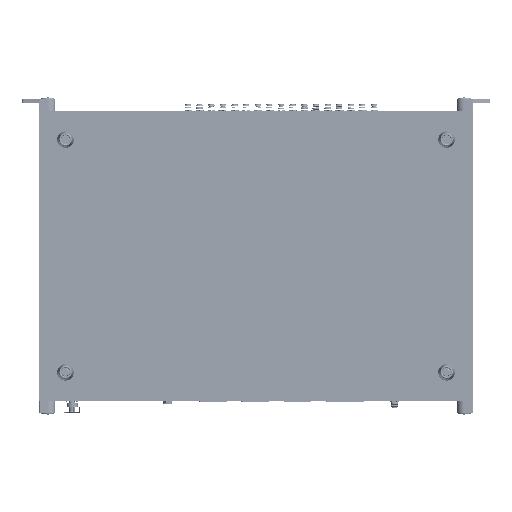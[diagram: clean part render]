
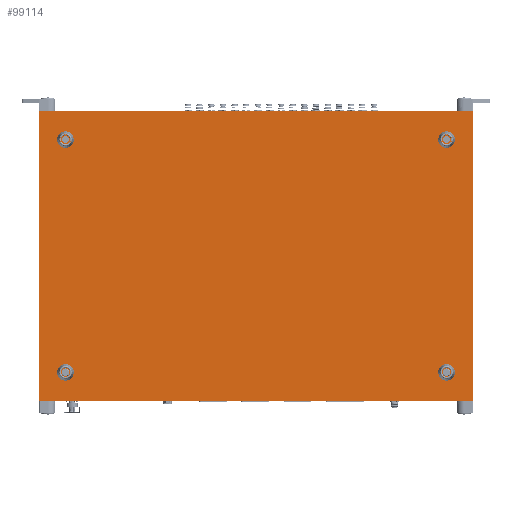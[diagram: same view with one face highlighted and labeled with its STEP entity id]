
A CAD part, front view. The second image highlights one B-rep face of the part: STEP entity #99114.
In plain terms, the highlighted planar face has unit normal (0, -1, 0).
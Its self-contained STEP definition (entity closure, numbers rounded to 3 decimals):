
#4321 = FACE_BOUND ( 'NONE', #170652, .T. ) ;
#4451 = VERTEX_POINT ( 'NONE', #182376 ) ;
#7683 = FACE_BOUND ( 'NONE', #128291, .T. ) ;
#16438 = DIRECTION ( 'NONE',  ( 0., 0., -1. ) ) ;
#16638 = EDGE_CURVE ( 'NONE', #182128, #182128, #127858, .T. ) ;
#17344 = ORIENTED_EDGE ( 'NONE', *, *, #90389, .F. ) ;
#19432 = AXIS2_PLACEMENT_3D ( 'NONE', #22455, #141537, #109757 ) ;
#22455 = CARTESIAN_POINT ( 'NONE',  ( 0., -43.8, 10. ) ) ;
#23039 = DIRECTION ( 'NONE',  ( 0., 0., 1. ) ) ;
#26514 = DIRECTION ( 'NONE',  ( 0., 1., 0. ) ) ;
#28403 = CARTESIAN_POINT ( 'NONE',  ( -172., -43.8, -93.35 ) ) ;
#28485 = CIRCLE ( 'NONE', #68299, 1.65 ) ;
#29503 = VERTEX_POINT ( 'NONE', #28403 ) ;
#33478 = DIRECTION ( 'NONE',  ( 0., 0., 1. ) ) ;
#40538 = PLANE ( 'NONE',  #19432 ) ;
#40666 = EDGE_CURVE ( 'NONE', #209510, #52855, #111850, .T. ) ;
#43430 = VECTOR ( 'NONE', #206902, 1000. ) ;
#45288 = DIRECTION ( 'NONE',  ( 0., 0., 1. ) ) ;
#52508 = ORIENTED_EDGE ( 'NONE', *, *, #219370, .F. ) ;
#52855 = VERTEX_POINT ( 'NONE', #123563 ) ;
#61660 = ORIENTED_EDGE ( 'NONE', *, *, #75763, .T. ) ;
#68299 = AXIS2_PLACEMENT_3D ( 'NONE', #79336, #82693, #45288 ) ;
#73383 = VECTOR ( 'NONE', #179024, 1000. ) ;
#75763 = EDGE_CURVE ( 'NONE', #123494, #123494, #28485, .T. ) ;
#79336 = CARTESIAN_POINT ( 'NONE',  ( -172., -43.8, 115. ) ) ;
#80880 = EDGE_CURVE ( 'NONE', #218583, #218583, #189014, .T. ) ;
#82693 = DIRECTION ( 'NONE',  ( 0., 1., 0. ) ) ;
#88284 = VECTOR ( 'NONE', #16438, 1000. ) ;
#90034 = CARTESIAN_POINT ( 'NONE',  ( -195.5, -43.8, -120.5 ) ) ;
#90389 = EDGE_CURVE ( 'NONE', #4451, #124219, #91757, .T. ) ;
#91302 = AXIS2_PLACEMENT_3D ( 'NONE', #127523, #217005, #179651 ) ;
#91757 = LINE ( 'NONE', #160909, #73383 ) ;
#99114 = ADVANCED_FACE ( 'NONE', ( #210682, #159664, #7683, #4321, #194829 ), #40538, .F. ) ;
#100247 = ORIENTED_EDGE ( 'NONE', *, *, #110074, .T. ) ;
#101570 = LINE ( 'NONE', #135569, #168110 ) ;
#106512 = CARTESIAN_POINT ( 'NONE',  ( -172., -43.8, 116.65 ) ) ;
#109757 = DIRECTION ( 'NONE',  ( 0., 0., 1. ) ) ;
#110074 = EDGE_CURVE ( 'NONE', #29503, #29503, #149386, .T. ) ;
#111850 = LINE ( 'NONE', #204674, #43430 ) ;
#115045 = ORIENTED_EDGE ( 'NONE', *, *, #197868, .F. ) ;
#115221 = CARTESIAN_POINT ( 'NONE',  ( 172., -43.8, 116.65 ) ) ;
#117169 = CARTESIAN_POINT ( 'NONE',  ( -172., -43.8, -95. ) ) ;
#123494 = VERTEX_POINT ( 'NONE', #106512 ) ;
#123563 = CARTESIAN_POINT ( 'NONE',  ( 195.5, -43.8, 140.5 ) ) ;
#124219 = VERTEX_POINT ( 'NONE', #90034 ) ;
#125123 = EDGE_LOOP ( 'NONE', ( #219590 ) ) ;
#127523 = CARTESIAN_POINT ( 'NONE',  ( 172., -43.8, -95. ) ) ;
#127858 = CIRCLE ( 'NONE', #160360, 1.65 ) ;
#128291 = EDGE_LOOP ( 'NONE', ( #223978 ) ) ;
#135569 = CARTESIAN_POINT ( 'NONE',  ( -195.5, -43.8, -120.5 ) ) ;
#137721 = LINE ( 'NONE', #153654, #88284 ) ;
#141537 = DIRECTION ( 'NONE',  ( 0., 1., 0. ) ) ;
#144030 = CARTESIAN_POINT ( 'NONE',  ( -195.5, -43.8, 140.5 ) ) ;
#149386 = CIRCLE ( 'NONE', #203747, 1.65 ) ;
#153654 = CARTESIAN_POINT ( 'NONE',  ( 195.5, -43.8, 140.5 ) ) ;
#156896 = DIRECTION ( 'NONE',  ( 0., 1., 0. ) ) ;
#159664 = FACE_BOUND ( 'NONE', #125123, .T. ) ;
#160360 = AXIS2_PLACEMENT_3D ( 'NONE', #176153, #156896, #23039 ) ;
#160909 = CARTESIAN_POINT ( 'NONE',  ( -195.5, -43.8, -120.5 ) ) ;
#168110 = VECTOR ( 'NONE', #33478, 1000. ) ;
#170652 = EDGE_LOOP ( 'NONE', ( #61660 ) ) ;
#176153 = CARTESIAN_POINT ( 'NONE',  ( 172., -43.8, 115. ) ) ;
#179024 = DIRECTION ( 'NONE',  ( -1., 0., 0. ) ) ;
#179651 = DIRECTION ( 'NONE',  ( 0., 0., 1. ) ) ;
#182128 = VERTEX_POINT ( 'NONE', #115221 ) ;
#182376 = CARTESIAN_POINT ( 'NONE',  ( 195.5, -43.8, -120.5 ) ) ;
#186303 = DIRECTION ( 'NONE',  ( 0., 0., 1. ) ) ;
#189014 = CIRCLE ( 'NONE', #91302, 1.65 ) ;
#194829 = FACE_OUTER_BOUND ( 'NONE', #217111, .T. ) ;
#197868 = EDGE_CURVE ( 'NONE', #124219, #209510, #101570, .T. ) ;
#203747 = AXIS2_PLACEMENT_3D ( 'NONE', #117169, #26514, #186303 ) ;
#204467 = EDGE_LOOP ( 'NONE', ( #100247 ) ) ;
#204674 = CARTESIAN_POINT ( 'NONE',  ( -195.5, -43.8, 140.5 ) ) ;
#206902 = DIRECTION ( 'NONE',  ( 1., 0., 0. ) ) ;
#209510 = VERTEX_POINT ( 'NONE', #144030 ) ;
#210682 = FACE_BOUND ( 'NONE', #204467, .T. ) ;
#214102 = CARTESIAN_POINT ( 'NONE',  ( 172., -43.8, -93.35 ) ) ;
#215310 = ORIENTED_EDGE ( 'NONE', *, *, #40666, .F. ) ;
#217005 = DIRECTION ( 'NONE',  ( 0., 1., 0. ) ) ;
#217111 = EDGE_LOOP ( 'NONE', ( #115045, #17344, #52508, #215310 ) ) ;
#218583 = VERTEX_POINT ( 'NONE', #214102 ) ;
#219370 = EDGE_CURVE ( 'NONE', #52855, #4451, #137721, .T. ) ;
#219590 = ORIENTED_EDGE ( 'NONE', *, *, #80880, .T. ) ;
#223978 = ORIENTED_EDGE ( 'NONE', *, *, #16638, .T. ) ;
